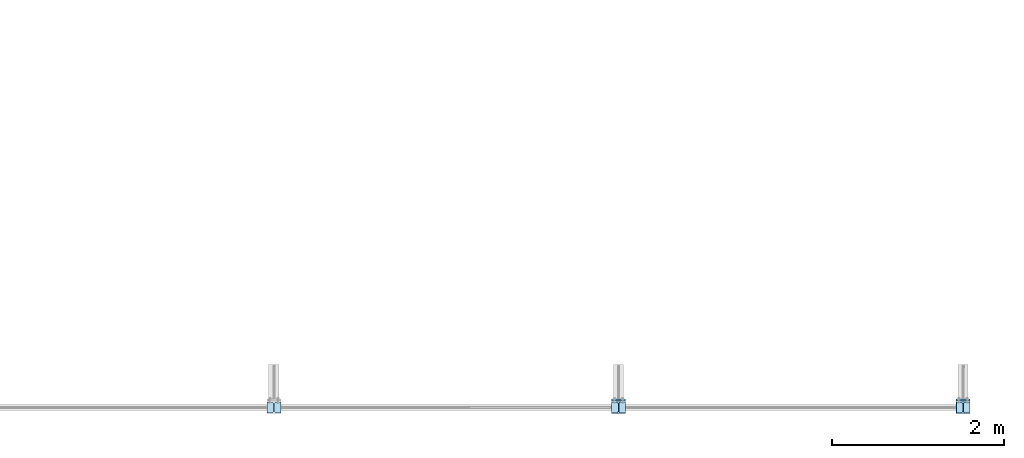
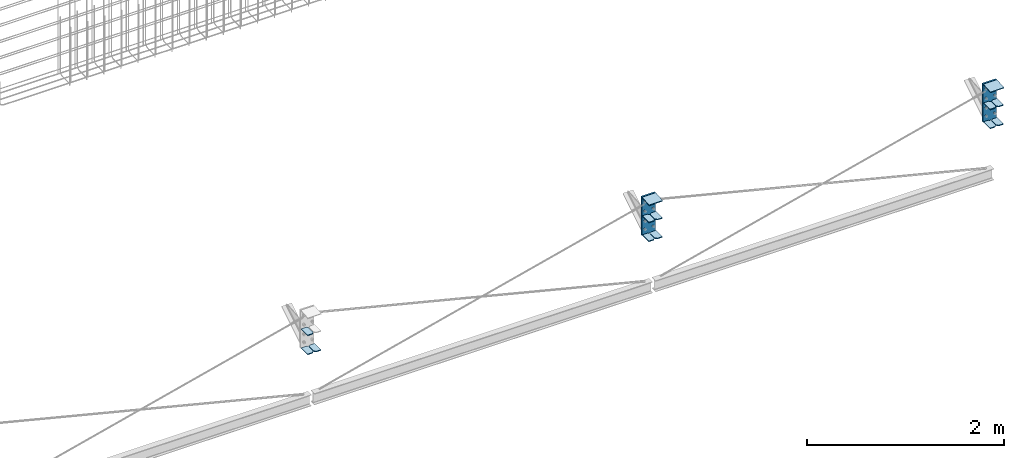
# One storey, part 2 of 21: 15 plates, 38 openings.
"""IFC4X3_ADD2 building model written with IfcOpenShell, lengths in millimetres."""

from ifc_helpers import new_model, entity, si_unit, converted_unit, derived_unit, direction, frame, origin, origin_with_axes, origin_2d_with_axis, place, context, project, spatial, polyline, circle, outline, extrude, material, layer, layer_set, element, save


model = new_model("IFC4X3_ADD2")

# Units and contexts
model_context = context("Model", 3, precision=0.01, world=origin(), true_north=direction((6.123233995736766e-17, 1.0)))
plan_context = context("Plan", 3, precision=0.01, world=origin(), true_north=direction((6.123233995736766e-17, 1.0)))
ifc_project = project(units=[si_unit("LENGTHUNIT", "METRE", prefix="MILLI"), converted_unit("PLANEANGLEUNIT", "DEGREE", entity("IfcPlaneAngleMeasure", 0.017453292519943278), si_unit("PLANEANGLEUNIT", "RADIAN"), dimensions=[0, 0, 0, 0, 0, 0, 0]), si_unit("AREAUNIT", "SQUARE_METRE"), si_unit("VOLUMEUNIT", "CUBIC_METRE"), derived_unit("THERMALTRANSMITTANCEUNIT", [(si_unit("MASSUNIT", "GRAM", prefix="KILO"), 1), (si_unit("THERMODYNAMICTEMPERATUREUNIT", "KELVIN"), -1), (si_unit("TIMEUNIT", "SECOND"), -3)]), derived_unit("USERDEFINED", [(si_unit("MASSUNIT", "GRAM", prefix="KILO"), 1), (si_unit("THERMODYNAMICTEMPERATUREUNIT", "KELVIN"), -1), (si_unit("TIMEUNIT", "SECOND"), -2)]), derived_unit("THERMALRESISTANCEUNIT", [(si_unit("MASSUNIT", "GRAM", prefix="KILO"), -1), (si_unit("TIMEUNIT", "SECOND"), 3), (si_unit("THERMODYNAMICTEMPERATUREUNIT", "KELVIN"), 1)]), si_unit("MASSUNIT", "GRAM", prefix="KILO"), derived_unit("MOMENTOFINERTIAUNIT", [(si_unit("LENGTHUNIT", "METRE"), 4)]), derived_unit("LINEARFORCEUNIT", [(si_unit("MASSUNIT", "GRAM", prefix="KILO"), 1), (si_unit("TIMEUNIT", "SECOND"), -2)]), derived_unit("WARPINGCONSTANTUNIT", [(si_unit("LENGTHUNIT", "METRE"), 6)]), si_unit("PRESSUREUNIT", "PASCAL"), derived_unit("MASSDENSITYUNIT", [(si_unit("MASSUNIT", "GRAM", prefix="KILO"), 1), (si_unit("LENGTHUNIT", "METRE"), -3)]), derived_unit("MODULUSOFELASTICITYUNIT", [(si_unit("MASSUNIT", "GRAM", prefix="KILO"), 1), (si_unit("TIMEUNIT", "SECOND"), -2), (si_unit("LENGTHUNIT", "METRE"), -1)]), derived_unit("THERMALEXPANSIONCOEFFICIENTUNIT", [(si_unit("THERMODYNAMICTEMPERATUREUNIT", "KELVIN"), -1)]), derived_unit("VAPORPERMEABILITYUNIT", [(si_unit("LENGTHUNIT", "METRE"), -1), (si_unit("TIMEUNIT", "SECOND"), 1)]), derived_unit("USERDEFINED", [(si_unit("MASSUNIT", "GRAM", prefix="KILO"), 1), (si_unit("TIMEUNIT", "SECOND"), -3), (si_unit("LENGTHUNIT", "METRE"), 3), (si_unit("ELECTRICCURRENTUNIT", "AMPERE"), -2)]), derived_unit("SPECIFICHEATCAPACITYUNIT", [(si_unit("THERMODYNAMICTEMPERATUREUNIT", "KELVIN"), -1), (si_unit("TIMEUNIT", "SECOND"), -2), (si_unit("LENGTHUNIT", "METRE"), 2)]), derived_unit("THERMALCONDUCTANCEUNIT", [(si_unit("MASSUNIT", "GRAM", prefix="KILO"), 1), (si_unit("THERMODYNAMICTEMPERATUREUNIT", "KELVIN"), -1), (si_unit("TIMEUNIT", "SECOND"), -3), (si_unit("LENGTHUNIT", "METRE"), 1)])], contexts=[model_context, plan_context])

# Site, building, storey
site_placement = place(None, origin())
site = spatial("IfcSite", under=ifc_project, at=site_placement, Name="Default", CompositionType="ELEMENT")
building_placement = place(site_placement, origin())
building = spatial("IfcBuilding", under=site, at=building_placement, Name="Complex structure", CompositionType="ELEMENT")
storey_placement = place(building_placement, frame((0.0, 0.0, 3000.0)))
storey = spatial("IfcBuildingStorey", under=building, at=storey_placement, Name="Level 01", CompositionType="ELEMENT", Elevation=3000.0)

# Plate, openings
ifc_material = material(Name="Metal Stud Layer")
ifc_layer_1 = layer(ifc_material, 10.0)
ifc_layer_set_1 = layer_set([ifc_layer_1], Name="Metal Stud Layer")
plate_1_placement = place(storey_placement, frame((-9224.421550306, -1217.454203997, 777.1681084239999), z_axis=(0.0, 0.0, -1.0), x_axis=(1.0, 0.0, 0.0)))
plate_1 = element("IfcPlate", 1, at=plate_1_placement, inside=storey, material=ifc_layer_set_1, Name="Stiffener#2", ObjectType="Stiffener#2", context=model_context, shape_type="SweptSolid", body=[
    extrude(outline(polyline([(0.0, 0.0), (76.2, 0.0), (76.2, 130.825), (0.0, 130.825), (0.0, 0.0)])), origin_with_axes(), (0.0, 0.0, 1.0), 10.0),
])
opening_1_placement = place(plate_1_placement, frame((0.0, 0.0, -0.01), z_axis=(0.0, 0.0, 1.0), x_axis=(1.0, 0.0, 0.0)))
element("IfcOpeningElement", 2, at=opening_1_placement, cuts=plate_1, ObjectType="Opening", context=model_context, shape_type="SweptSolid", body=[
    extrude(outline(polyline([(76.2, 130.825), (57.15, 130.825), (76.2, 111.775), (76.2, 130.825)])), origin(), (0.0, 0.0, 1.0), 10.02),
])
opening_2_placement = place(plate_1_placement, frame((0.0, 0.0, -0.01), z_axis=(0.0, 0.0, 1.0), x_axis=(1.0, 0.0, 0.0)))
element("IfcOpeningElement", 3, at=opening_2_placement, cuts=plate_1, ObjectType="Opening", context=model_context, shape_type="SweptSolid", body=[
    extrude(outline(polyline([(76.2, 0.0), (76.2, 19.05), (57.15, 0.0), (76.2, 0.0)])), origin(), (0.0, 0.0, 1.0), 10.02),
])

plate_2_placement = place(storey_placement, frame((-9142.221550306, -1217.454203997, 542.1681084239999), z_axis=(0.0, 0.0, -1.0), x_axis=(1.0, 0.0, 0.0)))
plate_2 = element("IfcPlate", 4, at=plate_2_placement, inside=storey, material=ifc_layer_set_1, Name="Stiffener#3", ObjectType="Stiffener#3", context=model_context, shape_type="SweptSolid", body=[
    extrude(outline(polyline([(0.0, 0.0), (76.2, 0.0), (76.2, 130.825), (0.0, 130.825), (0.0, 0.0)])), origin_with_axes(), (0.0, 0.0, 1.0), 10.0),
])
opening_3_placement = place(plate_2_placement, frame((0.0, 0.0, -0.01), z_axis=(0.0, 0.0, 1.0), x_axis=(1.0, 0.0, 0.0)))
element("IfcOpeningElement", 5, at=opening_3_placement, cuts=plate_2, ObjectType="Opening", context=model_context, shape_type="SweptSolid", body=[
    extrude(outline(polyline([(0.0, 130.825), (0.0, 111.775), (19.05, 130.825), (0.0, 130.825)])), origin(), (0.0, 0.0, 1.0), 10.02),
])
opening_4_placement = place(plate_2_placement, frame((0.0, 0.0, -0.01), z_axis=(0.0, 0.0, 1.0), x_axis=(1.0, 0.0, 0.0)))
element("IfcOpeningElement", 6, at=opening_4_placement, cuts=plate_2, ObjectType="Opening", context=model_context, shape_type="SweptSolid", body=[
    extrude(outline(polyline([(0.0, 0.0), (19.05, 0.0), (0.0, 19.05), (0.0, 0.0)])), origin(), (0.0, 0.0, 1.0), 10.02),
])

plate_3_placement = place(storey_placement, frame((-9224.421550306, -1217.454203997, 542.1681084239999), z_axis=(0.0, 0.0, -1.0), x_axis=(1.0, 0.0, 0.0)))
plate_3 = element("IfcPlate", 7, at=plate_3_placement, inside=storey, material=ifc_layer_set_1, Name="Stiffener#14", ObjectType="Stiffener#14", context=model_context, shape_type="SweptSolid", body=[
    extrude(outline(polyline([(0.0, 0.0), (76.2, 0.0), (76.2, 130.825), (0.0, 130.825), (0.0, 0.0)])), origin_with_axes(), (0.0, 0.0, 1.0), 10.0),
])
opening_5_placement = place(plate_3_placement, frame((0.0, 0.0, -0.01), z_axis=(0.0, 0.0, 1.0), x_axis=(1.0, 0.0, 0.0)))
element("IfcOpeningElement", 8, at=opening_5_placement, cuts=plate_3, ObjectType="Opening", context=model_context, shape_type="SweptSolid", body=[
    extrude(outline(polyline([(76.2, 130.825), (57.15, 130.825), (76.2, 111.775), (76.2, 130.825)])), origin(), (0.0, 0.0, 1.0), 10.02),
])
opening_6_placement = place(plate_3_placement, frame((0.0, 0.0, -0.01), z_axis=(0.0, 0.0, 1.0), x_axis=(1.0, 0.0, 0.0)))
element("IfcOpeningElement", 9, at=opening_6_placement, cuts=plate_3, ObjectType="Opening", context=model_context, shape_type="SweptSolid", body=[
    extrude(outline(polyline([(76.2, 0.0), (76.2, 19.05), (57.15, 0.0), (76.2, 0.0)])), origin(), (0.0, 0.0, 1.0), 10.02),
])

# Plate
plate_4_placement = place(storey_placement, frame((-5065.221550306, -1211.849432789, 995.883443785), z_axis=(0.0, -0.08304548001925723, 0.9965457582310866), x_axis=(-1.0, 0.0, 0.0)))
element("IfcPlate", 10, at=plate_4_placement, inside=storey, material=ifc_layer_set_1, Name="Coverplate", ObjectType="Coverplate", context=model_context, shape_type="SweptSolid", body=[
    extrude(outline(polyline([(0.0, 0.0), (160.0, 0.0), (160.0, 142.526864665), (0.0, 142.526864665), (0.0, 0.0)])), origin_with_axes(), (0.0, 0.0, 1.0), 10.0),
])

# Plate, openings
ifc_layer_2 = layer(ifc_material, 20.0)
ifc_layer_set_2 = layer_set([ifc_layer_2], Name="Metal Stud Layer")
plate_5_placement = place(storey_placement, frame((-5065.526350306, -1186.866703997, 1003.0), z_axis=(0.0, -1.0, 0.0), x_axis=(-1.0, 0.0, 0.0)))
plate_5 = element("IfcPlate", 11, at=plate_5_placement, inside=storey, material=ifc_layer_set_2, Name="Endplate", ObjectType="Endplate", context=model_context, shape_type="SweptSolid", body=[
    extrude(outline(polyline([(0.0, 0.0), (160.0, 0.0), (160.0, 475.831891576), (0.0, 475.831891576), (0.0, 0.0)])), origin_with_axes(), (0.0, 0.0, 1.0), 20.0),
])
opening_7_placement = place(plate_5_placement, frame((30.5, 300.0, 20.5), z_axis=(0.0, 0.0, -1.0), x_axis=(1.0, 0.0, 0.0)))
element("IfcOpeningElement", 12, at=opening_7_placement, cuts=plate_5, ObjectType="Opening", context=model_context, shape_type="SweptSolid", body=[
    extrude(circle(Radius=8.79475, at=origin_2d_with_axis()), origin(), (0.0, 0.0, 1.0), 21.0),
])
opening_8_placement = place(plate_5_placement, frame((129.5, 400.0, 20.5), z_axis=(0.0, 0.0, -1.0), x_axis=(1.0, 0.0, 0.0)))
element("IfcOpeningElement", 13, at=opening_8_placement, cuts=plate_5, ObjectType="Opening", context=model_context, shape_type="SweptSolid", body=[
    extrude(circle(Radius=8.79475, at=origin_2d_with_axis()), origin(), (0.0, 0.0, 1.0), 21.0),
])
opening_9_placement = place(plate_5_placement, frame((129.5, 60.0, 20.5), z_axis=(0.0, 0.0, -1.0), x_axis=(1.0, 0.0, 0.0)))
element("IfcOpeningElement", 14, at=opening_9_placement, cuts=plate_5, ObjectType="Opening", context=model_context, shape_type="SweptSolid", body=[
    extrude(circle(Radius=8.79475, at=origin_2d_with_axis()), origin(), (0.0, 0.0, 1.0), 21.0),
])
opening_10_placement = place(plate_5_placement, frame((129.5, 180.0, 20.5), z_axis=(0.0, 0.0, -1.0), x_axis=(1.0, 0.0, 0.0)))
element("IfcOpeningElement", 15, at=opening_10_placement, cuts=plate_5, ObjectType="Opening", context=model_context, shape_type="SweptSolid", body=[
    extrude(circle(Radius=8.79475, at=origin_2d_with_axis()), origin(), (0.0, 0.0, 1.0), 21.0),
])
opening_11_placement = place(plate_5_placement, frame((30.5, 180.0, 20.5), z_axis=(0.0, 0.0, -1.0), x_axis=(1.0, 0.0, 0.0)))
element("IfcOpeningElement", 16, at=opening_11_placement, cuts=plate_5, ObjectType="Opening", context=model_context, shape_type="SweptSolid", body=[
    extrude(circle(Radius=8.79475, at=origin_2d_with_axis()), origin(), (0.0, 0.0, 1.0), 21.0),
])
opening_12_placement = place(plate_5_placement, frame((129.5, 300.0, 20.5), z_axis=(0.0, 0.0, -1.0), x_axis=(1.0, 0.0, 0.0)))
element("IfcOpeningElement", 17, at=opening_12_placement, cuts=plate_5, ObjectType="Opening", context=model_context, shape_type="SweptSolid", body=[
    extrude(circle(Radius=8.79475, at=origin_2d_with_axis()), origin(), (0.0, 0.0, 1.0), 21.0),
])
opening_13_placement = place(plate_5_placement, frame((30.5, 400.0, 20.5), z_axis=(0.0, 0.0, -1.0), x_axis=(1.0, 0.0, 0.0)))
element("IfcOpeningElement", 18, at=opening_13_placement, cuts=plate_5, ObjectType="Opening", context=model_context, shape_type="SweptSolid", body=[
    extrude(circle(Radius=8.79475, at=origin_2d_with_axis()), origin(), (0.0, 0.0, 1.0), 21.0),
])
opening_14_placement = place(plate_5_placement, frame((30.5, 60.0, 20.5), z_axis=(0.0, 0.0, -1.0), x_axis=(1.0, 0.0, 0.0)))
element("IfcOpeningElement", 19, at=opening_14_placement, cuts=plate_5, ObjectType="Opening", context=model_context, shape_type="SweptSolid", body=[
    extrude(circle(Radius=8.79475, at=origin_2d_with_axis()), origin(), (0.0, 0.0, 1.0), 21.0),
])

plate_6_placement = place(storey_placement, frame((-5142.221550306, -1217.454203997, 777.1681084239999), z_axis=(0.0, 0.0, -1.0), x_axis=(1.0, 0.0, 0.0)))
plate_6 = element("IfcPlate", 20, at=plate_6_placement, inside=storey, material=ifc_layer_set_1, Name="Stiffener#2", ObjectType="Stiffener#2", context=model_context, shape_type="SweptSolid", body=[
    extrude(outline(polyline([(0.0, 0.0), (76.2, 0.0), (76.2, 130.825), (0.0, 130.825), (0.0, 0.0)])), origin_with_axes(), (0.0, 0.0, 1.0), 10.0),
])
opening_15_placement = place(plate_6_placement, frame((0.0, 0.0, -0.01), z_axis=(0.0, 0.0, 1.0), x_axis=(1.0, 0.0, 0.0)))
element("IfcOpeningElement", 21, at=opening_15_placement, cuts=plate_6, ObjectType="Opening", context=model_context, shape_type="SweptSolid", body=[
    extrude(outline(polyline([(0.0, 130.825), (0.0, 111.775), (19.05, 130.825), (0.0, 130.825)])), origin(), (0.0, 0.0, 1.0), 10.02),
])
opening_16_placement = place(plate_6_placement, frame((0.0, 0.0, -0.01), z_axis=(0.0, 0.0, 1.0), x_axis=(1.0, 0.0, 0.0)))
element("IfcOpeningElement", 22, at=opening_16_placement, cuts=plate_6, ObjectType="Opening", context=model_context, shape_type="SweptSolid", body=[
    extrude(outline(polyline([(0.0, 0.0), (19.05, 0.0), (0.0, 19.05), (0.0, 0.0)])), origin(), (0.0, 0.0, 1.0), 10.02),
])

plate_7_placement = place(storey_placement, frame((-5224.421550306, -1217.454203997, 777.1681084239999), z_axis=(0.0, 0.0, -1.0), x_axis=(1.0, 0.0, 0.0)))
plate_7 = element("IfcPlate", 23, at=plate_7_placement, inside=storey, material=ifc_layer_set_1, Name="Stiffener#2", ObjectType="Stiffener#2", context=model_context, shape_type="SweptSolid", body=[
    extrude(outline(polyline([(0.0, 0.0), (76.2, 0.0), (76.2, 130.825), (0.0, 130.825), (0.0, 0.0)])), origin_with_axes(), (0.0, 0.0, 1.0), 10.0),
])
opening_17_placement = place(plate_7_placement, frame((0.0, 0.0, -0.01), z_axis=(0.0, 0.0, 1.0), x_axis=(1.0, 0.0, 0.0)))
element("IfcOpeningElement", 24, at=opening_17_placement, cuts=plate_7, ObjectType="Opening", context=model_context, shape_type="SweptSolid", body=[
    extrude(outline(polyline([(76.2, 130.825), (57.15, 130.825), (76.2, 111.775), (76.2, 130.825)])), origin(), (0.0, 0.0, 1.0), 10.02),
])
opening_18_placement = place(plate_7_placement, frame((0.0, 0.0, -0.01), z_axis=(0.0, 0.0, 1.0), x_axis=(1.0, 0.0, 0.0)))
element("IfcOpeningElement", 25, at=opening_18_placement, cuts=plate_7, ObjectType="Opening", context=model_context, shape_type="SweptSolid", body=[
    extrude(outline(polyline([(76.2, 0.0), (76.2, 19.05), (57.15, 0.0), (76.2, 0.0)])), origin(), (0.0, 0.0, 1.0), 10.02),
])

plate_8_placement = place(storey_placement, frame((-5142.221550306, -1217.454203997, 542.1681084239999), z_axis=(0.0, 0.0, -1.0), x_axis=(1.0, 0.0, 0.0)))
plate_8 = element("IfcPlate", 26, at=plate_8_placement, inside=storey, material=ifc_layer_set_1, Name="Stiffener#3", ObjectType="Stiffener#3", context=model_context, shape_type="SweptSolid", body=[
    extrude(outline(polyline([(0.0, 0.0), (76.2, 0.0), (76.2, 130.825), (0.0, 130.825), (0.0, 0.0)])), origin_with_axes(), (0.0, 0.0, 1.0), 10.0),
])
opening_19_placement = place(plate_8_placement, frame((0.0, 0.0, -0.01), z_axis=(0.0, 0.0, 1.0), x_axis=(1.0, 0.0, 0.0)))
element("IfcOpeningElement", 27, at=opening_19_placement, cuts=plate_8, ObjectType="Opening", context=model_context, shape_type="SweptSolid", body=[
    extrude(outline(polyline([(0.0, 130.825), (0.0, 111.775), (19.05, 130.825), (0.0, 130.825)])), origin(), (0.0, 0.0, 1.0), 10.02),
])
opening_20_placement = place(plate_8_placement, frame((0.0, 0.0, -0.01), z_axis=(0.0, 0.0, 1.0), x_axis=(1.0, 0.0, 0.0)))
element("IfcOpeningElement", 28, at=opening_20_placement, cuts=plate_8, ObjectType="Opening", context=model_context, shape_type="SweptSolid", body=[
    extrude(outline(polyline([(0.0, 0.0), (19.05, 0.0), (0.0, 19.05), (0.0, 0.0)])), origin(), (0.0, 0.0, 1.0), 10.02),
])

plate_9_placement = place(storey_placement, frame((-5224.421550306, -1217.454203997, 542.1681084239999), z_axis=(0.0, 0.0, -1.0), x_axis=(1.0, 0.0, 0.0)))
plate_9 = element("IfcPlate", 29, at=plate_9_placement, inside=storey, material=ifc_layer_set_1, Name="Stiffener#14", ObjectType="Stiffener#14", context=model_context, shape_type="SweptSolid", body=[
    extrude(outline(polyline([(0.0, 0.0), (76.2, 0.0), (76.2, 130.825), (0.0, 130.825), (0.0, 0.0)])), origin_with_axes(), (0.0, 0.0, 1.0), 10.0),
])
opening_21_placement = place(plate_9_placement, frame((0.0, 0.0, -0.01), z_axis=(0.0, 0.0, 1.0), x_axis=(1.0, 0.0, 0.0)))
element("IfcOpeningElement", 30, at=opening_21_placement, cuts=plate_9, ObjectType="Opening", context=model_context, shape_type="SweptSolid", body=[
    extrude(outline(polyline([(76.2, 130.825), (57.15, 130.825), (76.2, 111.775), (76.2, 130.825)])), origin(), (0.0, 0.0, 1.0), 10.02),
])
opening_22_placement = place(plate_9_placement, frame((0.0, 0.0, -0.01), z_axis=(0.0, 0.0, 1.0), x_axis=(1.0, 0.0, 0.0)))
element("IfcOpeningElement", 31, at=opening_22_placement, cuts=plate_9, ObjectType="Opening", context=model_context, shape_type="SweptSolid", body=[
    extrude(outline(polyline([(76.2, 0.0), (76.2, 19.05), (57.15, 0.0), (76.2, 0.0)])), origin(), (0.0, 0.0, 1.0), 10.02),
])

# Plate
plate_10_placement = place(storey_placement, frame((-1065.221550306, -1211.849432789, 995.883443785), z_axis=(0.0, -0.08304548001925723, 0.9965457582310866), x_axis=(-1.0, 0.0, 0.0)))
element("IfcPlate", 32, at=plate_10_placement, inside=storey, material=ifc_layer_set_1, Name="Coverplate", ObjectType="Coverplate", context=model_context, shape_type="SweptSolid", body=[
    extrude(outline(polyline([(0.0, 0.0), (160.0, 0.0), (160.0, 142.526864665), (0.0, 142.526864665), (0.0, 0.0)])), origin_with_axes(), (0.0, 0.0, 1.0), 10.0),
])

# Plate, openings
plate_11_placement = place(storey_placement, frame((-1065.526350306, -1186.866703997, 1003.0), z_axis=(0.0, -1.0, 0.0), x_axis=(-1.0, 0.0, 0.0)))
plate_11 = element("IfcPlate", 33, at=plate_11_placement, inside=storey, material=ifc_layer_set_2, Name="Endplate", ObjectType="Endplate", context=model_context, shape_type="SweptSolid", body=[
    extrude(outline(polyline([(0.0, 0.0), (160.0, 0.0), (160.0, 475.831891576), (0.0, 475.831891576), (0.0, 0.0)])), origin_with_axes(), (0.0, 0.0, 1.0), 20.0),
])
opening_23_placement = place(plate_11_placement, frame((30.5, 300.0, 20.5), z_axis=(0.0, 0.0, -1.0), x_axis=(1.0, 0.0, 0.0)))
element("IfcOpeningElement", 34, at=opening_23_placement, cuts=plate_11, ObjectType="Opening", context=model_context, shape_type="SweptSolid", body=[
    extrude(circle(Radius=8.79475, at=origin_2d_with_axis()), origin(), (0.0, 0.0, 1.0), 21.0),
])
opening_24_placement = place(plate_11_placement, frame((129.5, 180.0, 20.5), z_axis=(0.0, 0.0, -1.0), x_axis=(1.0, 0.0, 0.0)))
element("IfcOpeningElement", 35, at=opening_24_placement, cuts=plate_11, ObjectType="Opening", context=model_context, shape_type="SweptSolid", body=[
    extrude(circle(Radius=8.79475, at=origin_2d_with_axis()), origin(), (0.0, 0.0, 1.0), 21.0),
])
opening_25_placement = place(plate_11_placement, frame((30.5, 180.0, 20.5), z_axis=(0.0, 0.0, -1.0), x_axis=(1.0, 0.0, 0.0)))
element("IfcOpeningElement", 36, at=opening_25_placement, cuts=plate_11, ObjectType="Opening", context=model_context, shape_type="SweptSolid", body=[
    extrude(circle(Radius=8.79475, at=origin_2d_with_axis()), origin(), (0.0, 0.0, 1.0), 21.0),
])
opening_26_placement = place(plate_11_placement, frame((129.5, 400.0, 20.5), z_axis=(0.0, 0.0, -1.0), x_axis=(1.0, 0.0, 0.0)))
element("IfcOpeningElement", 37, at=opening_26_placement, cuts=plate_11, ObjectType="Opening", context=model_context, shape_type="SweptSolid", body=[
    extrude(circle(Radius=8.79475, at=origin_2d_with_axis()), origin(), (0.0, 0.0, 1.0), 21.0),
])
opening_27_placement = place(plate_11_placement, frame((129.5, 300.0, 20.5), z_axis=(0.0, 0.0, -1.0), x_axis=(1.0, 0.0, 0.0)))
element("IfcOpeningElement", 38, at=opening_27_placement, cuts=plate_11, ObjectType="Opening", context=model_context, shape_type="SweptSolid", body=[
    extrude(circle(Radius=8.79475, at=origin_2d_with_axis()), origin(), (0.0, 0.0, 1.0), 21.0),
])
opening_28_placement = place(plate_11_placement, frame((30.5, 60.0, 20.5), z_axis=(0.0, 0.0, -1.0), x_axis=(1.0, 0.0, 0.0)))
element("IfcOpeningElement", 39, at=opening_28_placement, cuts=plate_11, ObjectType="Opening", context=model_context, shape_type="SweptSolid", body=[
    extrude(circle(Radius=8.79475, at=origin_2d_with_axis()), origin(), (0.0, 0.0, 1.0), 21.0),
])
opening_29_placement = place(plate_11_placement, frame((129.5, 60.0, 20.5), z_axis=(0.0, 0.0, -1.0), x_axis=(1.0, 0.0, 0.0)))
element("IfcOpeningElement", 40, at=opening_29_placement, cuts=plate_11, ObjectType="Opening", context=model_context, shape_type="SweptSolid", body=[
    extrude(circle(Radius=8.79475, at=origin_2d_with_axis()), origin(), (0.0, 0.0, 1.0), 21.0),
])
opening_30_placement = place(plate_11_placement, frame((30.5, 400.0, 20.5), z_axis=(0.0, 0.0, -1.0), x_axis=(1.0, 0.0, 0.0)))
element("IfcOpeningElement", 41, at=opening_30_placement, cuts=plate_11, ObjectType="Opening", context=model_context, shape_type="SweptSolid", body=[
    extrude(circle(Radius=8.79475, at=origin_2d_with_axis()), origin(), (0.0, 0.0, 1.0), 21.0),
])

plate_12_placement = place(storey_placement, frame((-1142.221550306, -1217.454203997, 777.1681084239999), z_axis=(0.0, 0.0, -1.0), x_axis=(1.0, 0.0, 0.0)))
plate_12 = element("IfcPlate", 42, at=plate_12_placement, inside=storey, material=ifc_layer_set_1, Name="Stiffener#2", ObjectType="Stiffener#2", context=model_context, shape_type="SweptSolid", body=[
    extrude(outline(polyline([(0.0, 0.0), (76.2, 0.0), (76.2, 130.825), (0.0, 130.825), (0.0, 0.0)])), origin_with_axes(), (0.0, 0.0, 1.0), 10.0),
])
opening_31_placement = place(plate_12_placement, frame((0.0, 0.0, -0.01), z_axis=(0.0, 0.0, 1.0), x_axis=(1.0, 0.0, 0.0)))
element("IfcOpeningElement", 43, at=opening_31_placement, cuts=plate_12, ObjectType="Opening", context=model_context, shape_type="SweptSolid", body=[
    extrude(outline(polyline([(0.0, 130.825), (0.0, 111.775), (19.05, 130.825), (0.0, 130.825)])), origin(), (0.0, 0.0, 1.0), 10.02),
])
opening_32_placement = place(plate_12_placement, frame((0.0, 0.0, -0.01), z_axis=(0.0, 0.0, 1.0), x_axis=(1.0, 0.0, 0.0)))
element("IfcOpeningElement", 44, at=opening_32_placement, cuts=plate_12, ObjectType="Opening", context=model_context, shape_type="SweptSolid", body=[
    extrude(outline(polyline([(0.0, 0.0), (19.05, 0.0), (0.0, 19.05), (0.0, 0.0)])), origin(), (0.0, 0.0, 1.0), 10.02),
])

plate_13_placement = place(storey_placement, frame((-1224.421550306, -1217.454203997, 777.1681084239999), z_axis=(0.0, 0.0, -1.0), x_axis=(1.0, 0.0, 0.0)))
plate_13 = element("IfcPlate", 45, at=plate_13_placement, inside=storey, material=ifc_layer_set_1, Name="Stiffener#2", ObjectType="Stiffener#2", context=model_context, shape_type="SweptSolid", body=[
    extrude(outline(polyline([(0.0, 0.0), (76.2, 0.0), (76.2, 130.825), (0.0, 130.825), (0.0, 0.0)])), origin_with_axes(), (0.0, 0.0, 1.0), 10.0),
])
opening_33_placement = place(plate_13_placement, frame((0.0, 0.0, -0.01), z_axis=(0.0, 0.0, 1.0), x_axis=(1.0, 0.0, 0.0)))
element("IfcOpeningElement", 46, at=opening_33_placement, cuts=plate_13, ObjectType="Opening", context=model_context, shape_type="SweptSolid", body=[
    extrude(outline(polyline([(76.2, 130.825), (57.15, 130.825), (76.2, 111.775), (76.2, 130.825)])), origin(), (0.0, 0.0, 1.0), 10.02),
])
opening_34_placement = place(plate_13_placement, frame((0.0, 0.0, -0.01), z_axis=(0.0, 0.0, 1.0), x_axis=(1.0, 0.0, 0.0)))
element("IfcOpeningElement", 47, at=opening_34_placement, cuts=plate_13, ObjectType="Opening", context=model_context, shape_type="SweptSolid", body=[
    extrude(outline(polyline([(76.2, 0.0), (76.2, 19.05), (57.15, 0.0), (76.2, 0.0)])), origin(), (0.0, 0.0, 1.0), 10.02),
])

plate_14_placement = place(storey_placement, frame((-1142.221550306, -1217.454203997, 542.1681084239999), z_axis=(0.0, 0.0, -1.0), x_axis=(1.0, 0.0, 0.0)))
plate_14 = element("IfcPlate", 48, at=plate_14_placement, inside=storey, material=ifc_layer_set_1, Name="Stiffener#3", ObjectType="Stiffener#3", context=model_context, shape_type="SweptSolid", body=[
    extrude(outline(polyline([(0.0, 0.0), (76.2, 0.0), (76.2, 130.825), (0.0, 130.825), (0.0, 0.0)])), origin_with_axes(), (0.0, 0.0, 1.0), 10.0),
])
opening_35_placement = place(plate_14_placement, frame((0.0, 0.0, -0.01), z_axis=(0.0, 0.0, 1.0), x_axis=(1.0, 0.0, 0.0)))
element("IfcOpeningElement", 49, at=opening_35_placement, cuts=plate_14, ObjectType="Opening", context=model_context, shape_type="SweptSolid", body=[
    extrude(outline(polyline([(0.0, 130.825), (0.0, 111.775), (19.05, 130.825), (0.0, 130.825)])), origin(), (0.0, 0.0, 1.0), 10.02),
])
opening_36_placement = place(plate_14_placement, frame((0.0, 0.0, -0.01), z_axis=(0.0, 0.0, 1.0), x_axis=(1.0, 0.0, 0.0)))
element("IfcOpeningElement", 50, at=opening_36_placement, cuts=plate_14, ObjectType="Opening", context=model_context, shape_type="SweptSolid", body=[
    extrude(outline(polyline([(0.0, 0.0), (19.05, 0.0), (0.0, 19.05), (0.0, 0.0)])), origin(), (0.0, 0.0, 1.0), 10.02),
])

plate_15_placement = place(storey_placement, frame((-1224.421550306, -1217.454203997, 542.1681084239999), z_axis=(0.0, 0.0, -1.0), x_axis=(1.0, 0.0, 0.0)))
plate_15 = element("IfcPlate", 51, at=plate_15_placement, inside=storey, material=ifc_layer_set_1, Name="Stiffener#14", ObjectType="Stiffener#14", context=model_context, shape_type="SweptSolid", body=[
    extrude(outline(polyline([(0.0, 0.0), (76.2, 0.0), (76.2, 130.825), (0.0, 130.825), (0.0, 0.0)])), origin_with_axes(), (0.0, 0.0, 1.0), 10.0),
])
opening_37_placement = place(plate_15_placement, frame((0.0, 0.0, -0.01), z_axis=(0.0, 0.0, 1.0), x_axis=(1.0, 0.0, 0.0)))
element("IfcOpeningElement", 52, at=opening_37_placement, cuts=plate_15, ObjectType="Opening", context=model_context, shape_type="SweptSolid", body=[
    extrude(outline(polyline([(76.2, 130.825), (57.15, 130.825), (76.2, 111.775), (76.2, 130.825)])), origin(), (0.0, 0.0, 1.0), 10.02),
])
opening_38_placement = place(plate_15_placement, frame((0.0, 0.0, -0.01), z_axis=(0.0, 0.0, 1.0), x_axis=(1.0, 0.0, 0.0)))
element("IfcOpeningElement", 53, at=opening_38_placement, cuts=plate_15, ObjectType="Opening", context=model_context, shape_type="SweptSolid", body=[
    extrude(outline(polyline([(76.2, 0.0), (76.2, 19.05), (57.15, 0.0), (76.2, 0.0)])), origin(), (0.0, 0.0, 1.0), 10.02),
])

save(model, "model.ifc")
